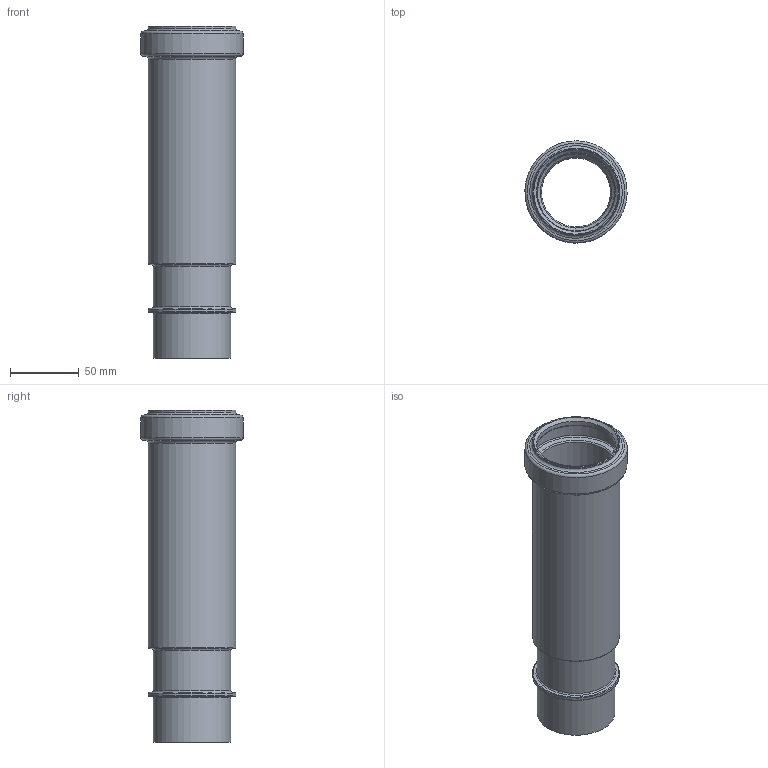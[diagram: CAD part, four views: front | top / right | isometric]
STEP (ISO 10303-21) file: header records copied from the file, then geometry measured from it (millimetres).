
FILE_DESCRIPTION(/* description */ (''),/* implementation_level */ '2;1');
FILE_NAME(/* name */ 'C:\Planerdaten\Export PLA\363.700.16.1\stp\363700.stp',/* time_stamp */ '2020-07-07T08:49:21+02:00',/* author */ ('JANAN'),/* organization */ (''),/* preprocessor_version */ 'ST-DEVELOPER v16.13',/* originating_system */ 'Autodesk Inventor 2018',/* authorisation */ '');
FILE_SCHEMA (('AUTOMOTIVE_DESIGN { 1 0 10303 214 3 1 1 }'));
Length unit declared in the file: millimetre
Products named in the file (1): Langmuffe m/Doppelbund PE-HD d56
Bounding box: 74.18 x 74.18 x 240.78 mm (x, y, z)
Volume: 150110.9 mm3; surface area: 94931.5 mm2
Topology: 1 solids, 1 shells, 38 faces, 85 edges, 49 vertices
Faces by surface type: torus 17, cylinder 10, cone 9, plane 2
Full cylindrical faces by diameter (mm): 49.95 x1, 56.25 x2, 57 x1, 57.25 x1, 63.3 x2, 63.55 x1, 67.9 x1, 74.2 x1
Entity records: 839 total; most frequent: DIRECTION 154, CARTESIAN_POINT 115, AXIS2_PLACEMENT_3D 77, EDGE_LOOP 76, ORIENTED_EDGE 76, STYLED_ITEM 39, FACE_BOUND 38, FACE_OUTER_BOUND 38
